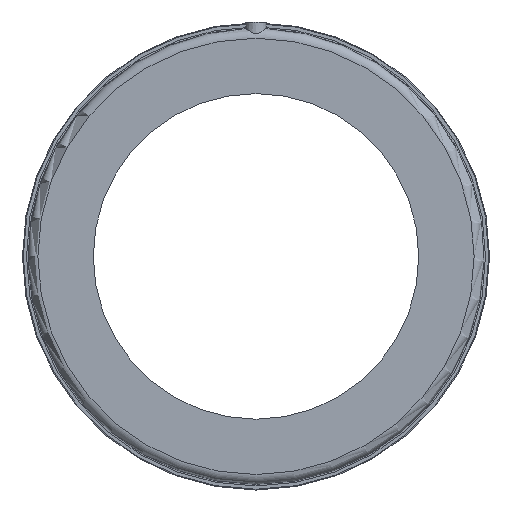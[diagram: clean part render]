
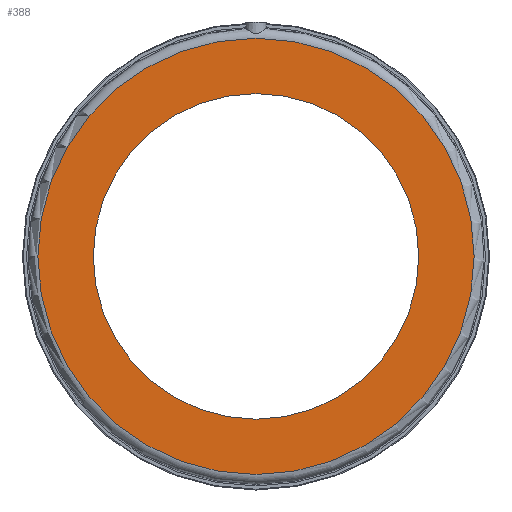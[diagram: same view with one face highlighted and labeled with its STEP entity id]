
A CAD part, left-side view. The second image highlights one B-rep face of the part: STEP entity #388.
In plain terms, the highlighted planar face has unit normal (-1, 0, 0).
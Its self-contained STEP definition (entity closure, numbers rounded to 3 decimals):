
#22=PLANE('',#443);
#64=ORIENTED_EDGE('',*,*,#138,.F.);
#65=ORIENTED_EDGE('',*,*,#136,.T.);
#136=EDGE_CURVE('',#173,#173,#207,.T.);
#138=EDGE_CURVE('',#174,#174,#208,.T.);
#173=VERTEX_POINT('',#697);
#174=VERTEX_POINT('',#716);
#207=CIRCLE('',#442,268.);
#208=CIRCLE('',#444,200.);
#242=EDGE_LOOP('',(#64));
#243=EDGE_LOOP('',(#65));
#312=FACE_BOUND('',#242,.T.);
#313=FACE_BOUND('',#243,.T.);
#388=ADVANCED_FACE('',(#312,#313),#22,.F.);
#442=AXIS2_PLACEMENT_3D('',#696,#521,#522);
#443=AXIS2_PLACEMENT_3D('',#714,#523,#524);
#444=AXIS2_PLACEMENT_3D('',#715,#525,#526);
#521=DIRECTION('',(-1.,0.,0.));
#522=DIRECTION('',(0.,0.,1.));
#523=DIRECTION('',(1.,0.,0.));
#524=DIRECTION('',(0.,0.,-1.));
#525=DIRECTION('',(-1.,0.,0.));
#526=DIRECTION('',(0.,0.,1.));
#696=CARTESIAN_POINT('',(-192.5,0.,0.));
#697=CARTESIAN_POINT('',(-192.5,0.,268.));
#714=CARTESIAN_POINT('',(-192.5,0.,200.));
#715=CARTESIAN_POINT('',(-192.5,0.,0.));
#716=CARTESIAN_POINT('',(-192.5,0.,200.));
